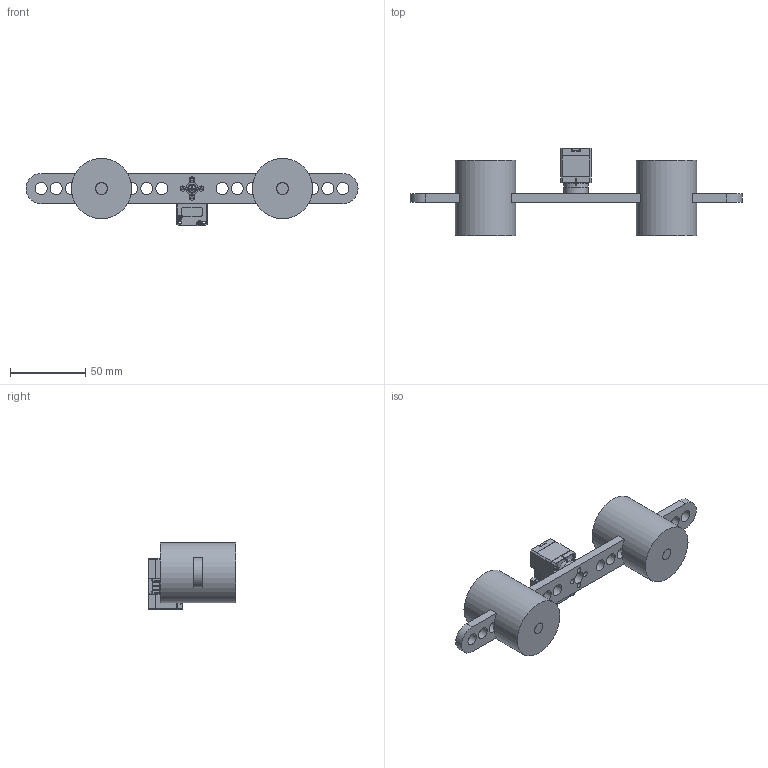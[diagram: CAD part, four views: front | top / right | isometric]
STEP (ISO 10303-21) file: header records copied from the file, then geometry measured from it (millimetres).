
FILE_DESCRIPTION(/* description */ (''),/* implementation_level */ '2;1');
FILE_NAME(/* name */ '1DOF-B0.step',/* time_stamp */ '2026-09-01T18:29:58+04:00',/* author */ (''),/* organization */ (''),/* preprocessor_version */ 'ST-DEVELOPER v20.1',/* originating_system */ 'Autodesk Translation Framework v15.8.0.0',/* authorisation */ '');
FILE_SCHEMA (('AUTOMOTIVE_DESIGN { 1 0 10303 214 3 1 1 }'));
Length unit declared in the file: millimetre
Products named in the file (5): 2026-08-23-13-39-55-956; 2026-08-23-02-38-30-805; 2026-08-23-13-27-59-025; 2026-08-23-13-33-12-551; 2026-08-23-13-34-08-997
Assembly tree (6 placements, depth 2):
  2026-08-23-13-39-55-956
    2026-08-23-02-38-30-805
    2026-08-23-13-27-59-025
    2026-08-23-13-33-12-551  x2
    2026-08-23-13-34-08-997  x2
Bounding box: 220 x 58 x 44.5 mm (x, y, z)
Volume: 150677.1 mm3; surface area: 44880.5 mm2
Topology: 6 solids, 16 shells, 624 faces, 1586 edges, 1031 vertices
Faces by surface type: plane 442, cylinder 151, cone 19, torus 7, sphere 5
Full cylindrical faces by diameter (mm): 1.4 x8, 1.6 x16, 1.8 x4, 2 x8, 2.2 x1, 3.5 x4, 5 x1, 5.2 x1, 5.6 x1, 6 x1, 6.7 x1, 7.68 x2, 7.8 x1, 8 x23, 10 x2, 14 x2, 16 x1, 40 x2
Entity records: 18822 total; most frequent: CARTESIAN_POINT 3393, DIRECTION 3160, ORIENTED_EDGE 3118, EDGE_CURVE 1559, LINE 1146, VECTOR 1146, VERTEX_POINT 1013, AXIS2_PLACEMENT_3D 1007
